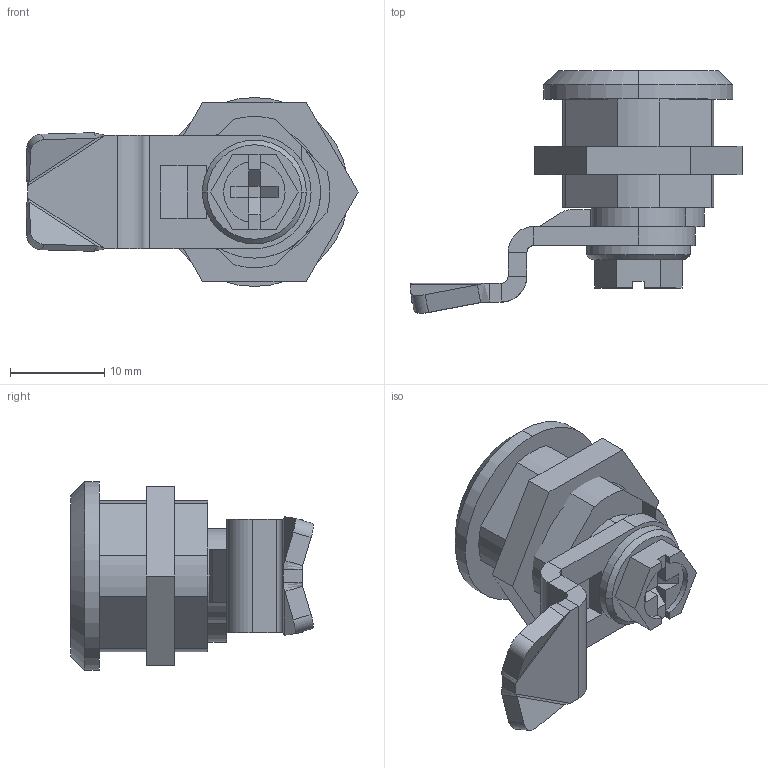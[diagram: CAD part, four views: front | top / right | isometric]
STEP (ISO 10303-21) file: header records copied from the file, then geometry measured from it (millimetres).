
FILE_DESCRIPTION (( 'STEP AP214' ), '1' );
FILE_NAME ('115.1-DK-19,5-SW.step', '2021-10-26T10:59:20', ( '' ), ( '' ), 'SwSTEP 2.0', 'SolidWorks 2019', '' );
FILE_SCHEMA (( 'AUTOMOTIVE_DESIGN' ));
Length unit declared in the file: millimetre
Products named in the file (5): WB115.1_Gehäuse^WB115.1_20-SW; WB115.1_Zunge^WB115.1_2.2-19,5; WB115.1_Betätigungswelle^WB115.1_DK-SW; WB115.1_Gegenmutter^WB115.1; 115.1-DK-19,5-SW
Assembly tree (4 placements, depth 2):
  115.1-DK-19,5-SW
    WB115.1_Gehäuse^WB115.1_20-SW
    WB115.1_Betätigungswelle^WB115.1_DK-SW
    WB115.1_Zunge^WB115.1_2.2-19,5
    WB115.1_Gegenmutter^WB115.1
Bounding box: 35.15 x 25.67 x 20 mm (x, y, z)
Volume: 4199 mm3; surface area: 4535.2 mm2
Topology: 4 solids, 4 shells, 148 faces, 347 edges, 216 vertices
Faces by surface type: plane 97, cylinder 43, cone 4, bspline 4
Entity records: 4632 total; most frequent: CARTESIAN_POINT 786, DIRECTION 717, ORIENTED_EDGE 694, EDGE_CURVE 347, LINE 247, VECTOR 247, AXIS2_PLACEMENT_3D 235, VERTEX_POINT 216
